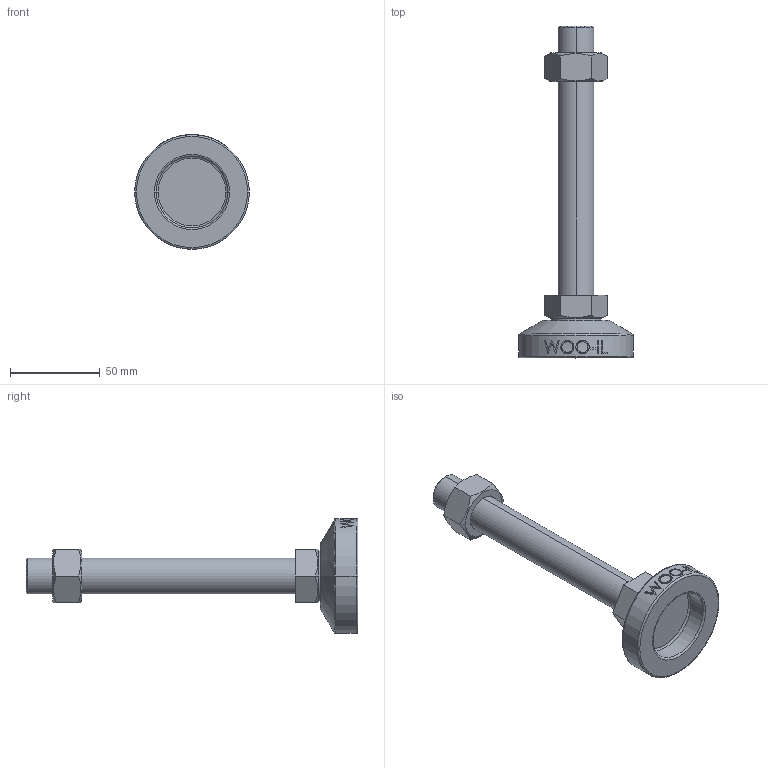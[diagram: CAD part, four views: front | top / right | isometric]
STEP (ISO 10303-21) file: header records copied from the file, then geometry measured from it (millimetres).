
FILE_DESCRIPTION (( 'STEP AP214' ), '1' );
FILE_NAME ('MFZ64-M20-150.step', '2021-01-15T07:07:07', ( '' ), ( '' ), 'SwSTEP 2.0', 'SolidWorks 2019', '' );
FILE_SCHEMA (( 'AUTOMOTIVE_DESIGN' ));
Length unit declared in the file: millimetre
Products named in the file (2): MFZ64-M20-150
Bounding box: 64 x 185 x 64 mm (x, y, z)
Volume: 108912.7 mm3; surface area: 26396.1 mm2
Topology: 3 solids, 3 shells, 106 faces, 247 edges, 158 vertices
Faces by surface type: plane 48, cylinder 18, bspline 16, cone 14, torus 10
Entity records: 4564 total; most frequent: CARTESIAN_POINT 2201, ORIENTED_EDGE 494, DIRECTION 439, EDGE_CURVE 247, AXIS2_PLACEMENT_3D 170, VERTEX_POINT 158, EDGE_LOOP 119, FACE_OUTER_BOUND 106
